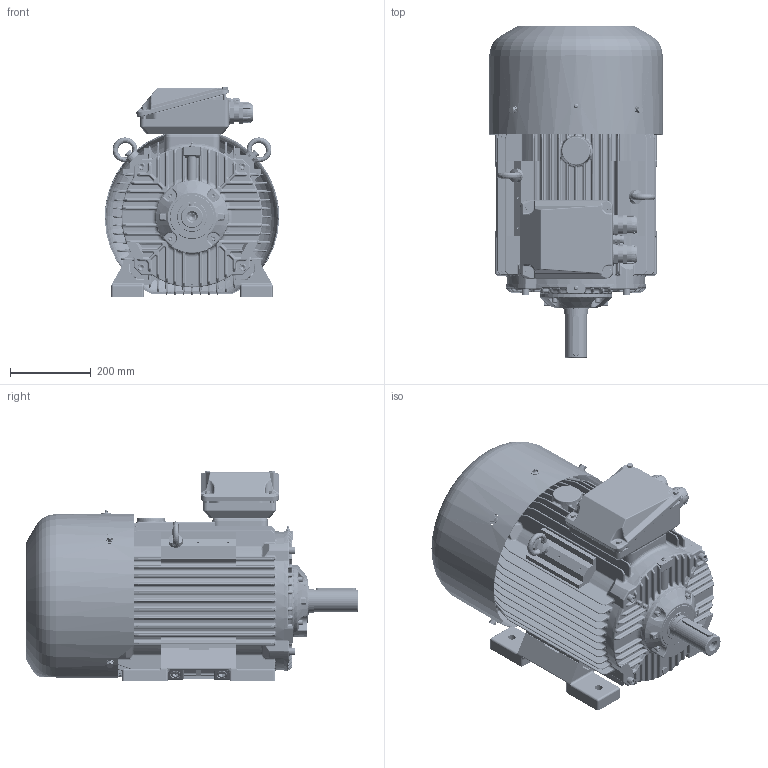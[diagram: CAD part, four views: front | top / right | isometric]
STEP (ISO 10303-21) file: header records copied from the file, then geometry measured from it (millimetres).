
FILE_DESCRIPTION(/* description */ ('Unknown'),/* implementation_level */ '2;1');
FILE_NAME(/* name */ 'SIE200L2-12-K',/* time_stamp */ '2021-12-21T10:57:00+01:00',/* author */ ('Unknown'),/* organization */ ('Unknown'),/* preprocessor_version */ 'ST-DEVELOPER v16.7',/* originating_system */ 'DEX',/* authorisation */ $);
FILE_SCHEMA (('AUTOMOTIVE_DESIGN {1 0 10303 214 3 1 1}'));
Products named in the file (1): SIE200L2-12-K_katalog
Bounding box: 433 x 823.5 x 523.4 mm (x, y, z)
Volume: 13745483.8 mm3; surface area: 3883710.9 mm2
Topology: 3 solids, 27 shells, 9911 faces, 25218 edges, 15260 vertices
Faces by surface type: plane 3967, cylinder 2749, bspline 1782, torus 907, cone 319, sphere 187
Full cylindrical faces by diameter (mm): 1.5 x2, 2.5 x2, 3.242 x2, 4 x2, 4.917 x4, 6 x2, 6.466 x4, 6.647 x12, 8 x13, 8.16 x6, 8.376 x4, 8.917 x2, 9 x9, 9.091 x1, 10 x23, 10.106 x16, 10.5 x5, 11 x1, 11.63 x4, 12 x4, 13 x7, 13.546 x4, 13.835 x7, 14 x10, 14.376 x3, 14.63 x6, 16 x8, 17 x1, 17.294 x1, 18 x9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
Entity records: 388695 total; most frequent: CARTESIAN_POINT 90992, ORIENTED_EDGE 48574, DIRECTION 45975, EDGE_CURVE 24287, AXIS2_PLACEMENT_3D 16745, VERTEX_POINT 14984, LINE 12485, VECTOR 12485
